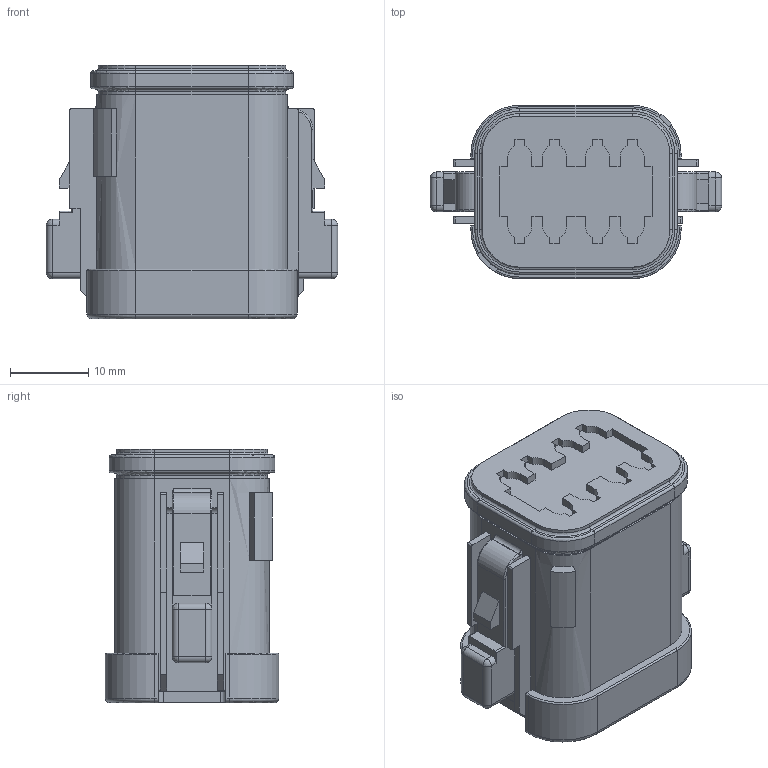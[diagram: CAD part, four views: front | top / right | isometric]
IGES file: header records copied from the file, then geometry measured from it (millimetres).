
Start section:  PTC IGES file: c-dt06-08sd-ce01-99-3d.igs
Global section: file name: c-dt06-08sd-ce01-99-3d.igs; native system: Pro/ENGINEER by Parametric Technology Corporation; preprocessor: 2011490; author: workeradm; organization: Unknown; units: millimetre
Bounding box: 37.21 x 22.15 x 32.44 mm (x, y, z)
Surface area: 5779.7 mm2 (no closed solid volume)
Topology: 0 solids, 0 shells, 454 faces, 2276 edges, 2276 vertices
Faces by surface type: revolution 258, bspline 196
